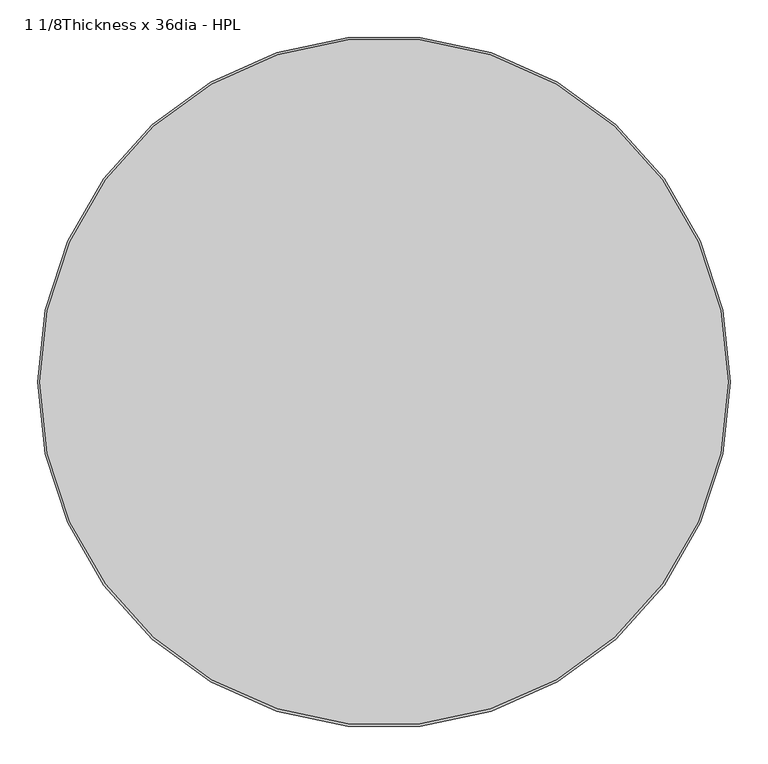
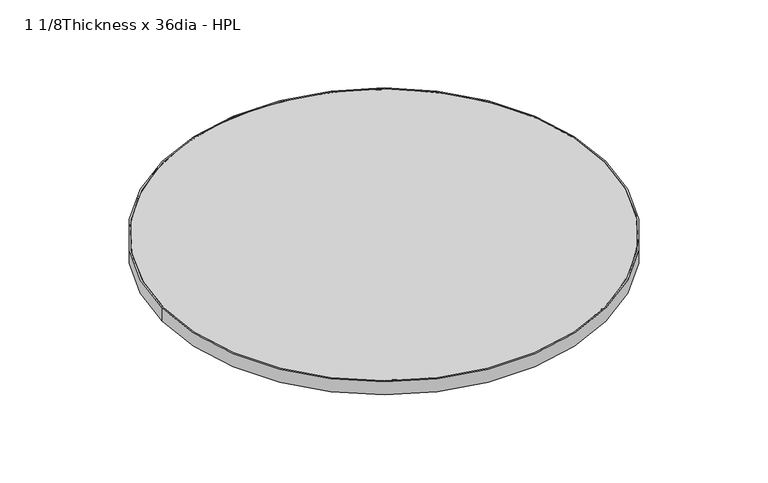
"""IFC4 building model written with IfcOpenShell, lengths in millimetres: furniture geometry, Steelcase - Groupwork - Table - Top - Round : 1 1/8Thickness x 36dia - HPL."""

from ifc_helpers import new_model, si_unit, point, frame, origin, origin_2d, place, context, project, spatial, circle_curve, trimmed, segment, composite_curve, outline, extrude, source, transform, mapped, element, save


def furniture_1_1_8thickness_x_36dia_hpl_6dad2c2d(model_context):
    return source(origin(), model_context, "Body", "SweptSolid", [
        extrude(outline(composite_curve([segment(trimmed(circle_curve(origin_2d(), 460.248), [point((-460.248, 0.0))], [point((460.248, 0.0))], False, "CARTESIAN"), True, "CONTINUOUS"), segment(trimmed(circle_curve(origin_2d(), 460.248), [point((460.248, 0.0))], [point((-460.248, 0.0))], False, "CARTESIAN"), True, "CONTINUOUS")], self_intersect=False), holes=[composite_curve([segment(trimmed(circle_curve(origin_2d(), 457.2), [point((457.2, 0.0))], [point((-457.2, 0.0))], True, "CARTESIAN"), True, "CONTINUOUS"), segment(trimmed(circle_curve(origin_2d(), 457.2), [point((-457.2, 0.0))], [point((457.2, 0.0))], True, "CARTESIAN"), True, "CONTINUOUS")], self_intersect=False)]), frame((0.0, 0.0, 695.579), z_axis=(0.0, 0.0, 1.0), x_axis=(1.0, 0.0, 0.0)), (0.0, 0.0, 1.0), 28.702),
        extrude(outline(composite_curve([segment(trimmed(circle_curve(origin_2d(), 457.2), [point((-457.2, 0.0))], [point((457.2, 0.0))], False, "CARTESIAN"), True, "CONTINUOUS"), segment(trimmed(circle_curve(origin_2d(), 457.2), [point((457.2, 0.0))], [point((-457.2, 0.0))], False, "CARTESIAN"), True, "CONTINUOUS")], self_intersect=False)), frame((0.0, 0.0, 695.579), z_axis=(0.0, 0.0, 1.0), x_axis=(1.0, 0.0, 0.0)), (0.0, 0.0, 1.0), 28.702),
    ])


if __name__ == "__main__":
    model = new_model("IFC4")
    model_context = context("Model", 3, world=origin())
    ifc_project = project(units=[si_unit("LENGTHUNIT", "METRE", prefix="MILLI")], contexts=[model_context])
    site = spatial("IfcSite", under=ifc_project)
    building = spatial("IfcBuilding", under=site)
    placement = place(None, origin())
    furniture_1_1_8thickness_x_36dia_hpl_shape = furniture_1_1_8thickness_x_36dia_hpl_6dad2c2d(model_context)
    element("IfcFurniture", 1, ObjectType="Steelcase - Groupwork - Table - Top - Round : 1 1/8Thickness x 36dia - HPL", at=placement, inside=building, context=model_context, shape_type="MappedRepresentation", body=[
        mapped(furniture_1_1_8thickness_x_36dia_hpl_shape, transform((0.0, 0.0, 0.0), x_axis=(1.0, 0.0, 0.0), y_axis=(0.0, 1.0, 0.0), z_axis=(0.0, 0.0, 1.0))),
    ])
    save(model, "model.ifc")
